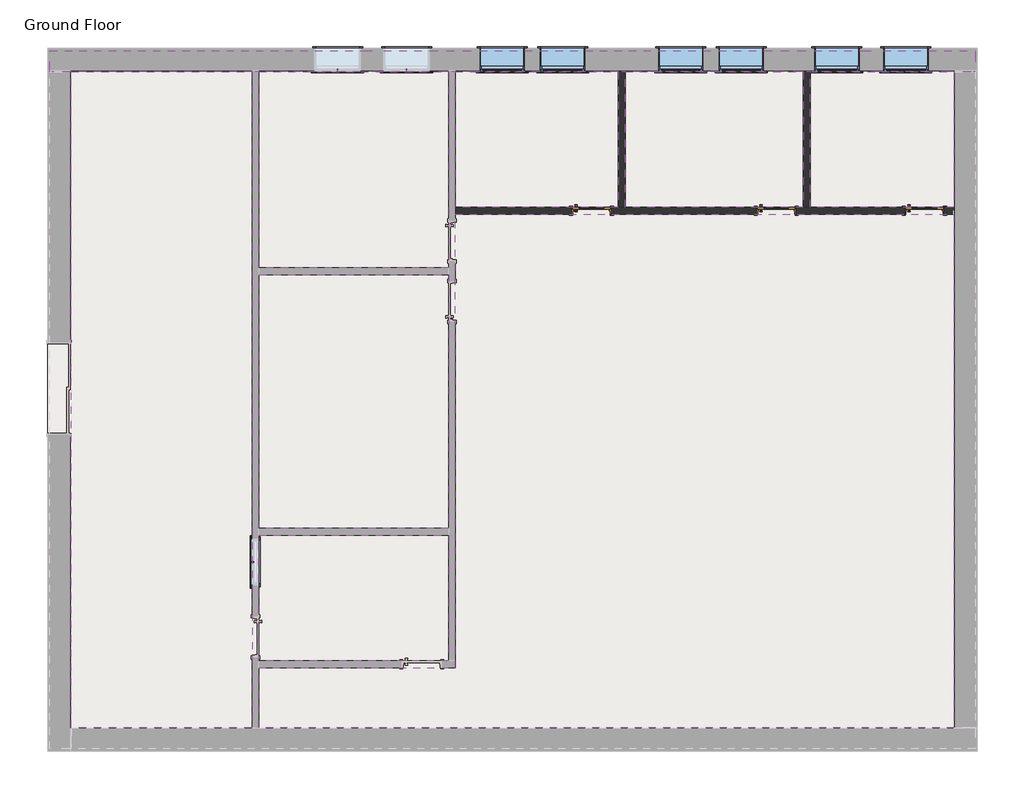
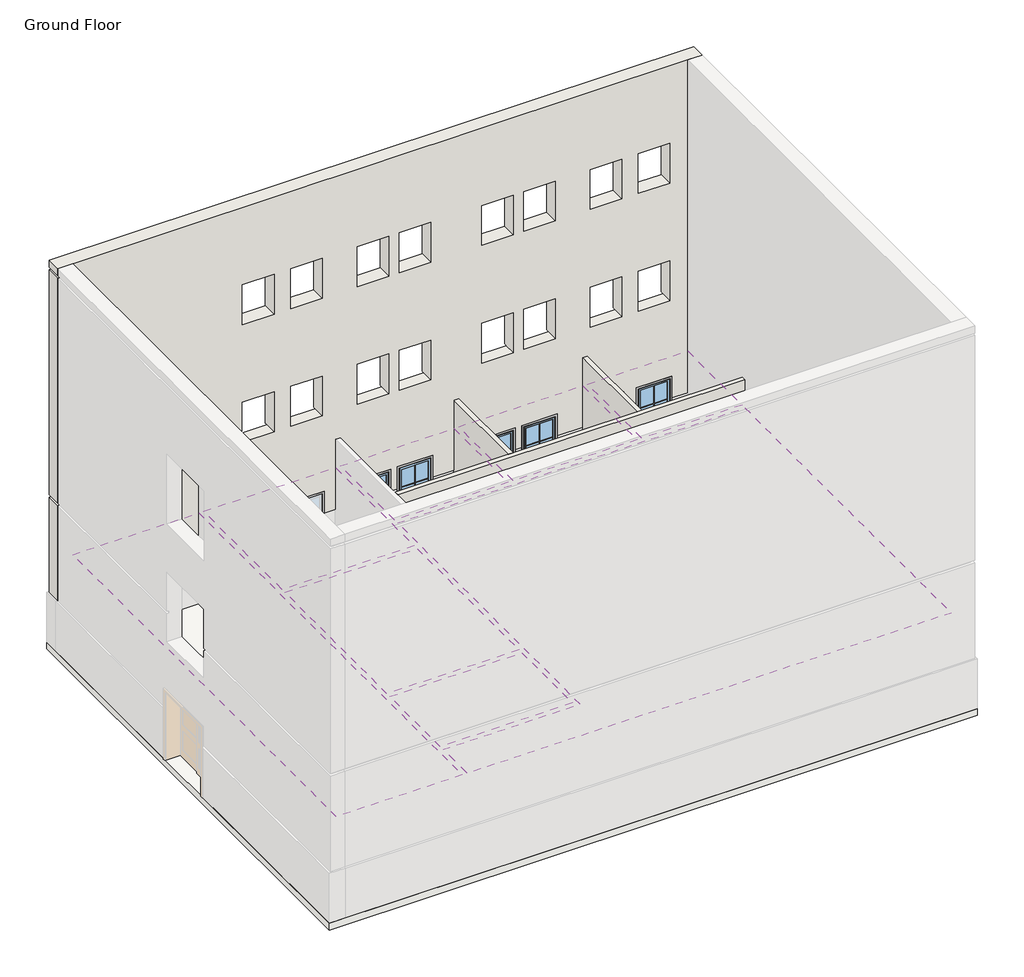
# One storey, part 2 of 2: 27 proxies, 8 coverings, 6 windows, 4 walls, 3 doors, 1 slab.
"""IFC4 building model written with IfcOpenShell, lengths in millimetres."""

from ifc_helpers import new_model, si_unit, frame, origin, place, context, project, spatial, polyline, outline, extrude, faceted_brep, transform, mapped, element, save
from components import muntin_pattern_2x2_muntin_pattern_2x2_49331bd8, muntin_pattern_2x2_muntin_pattern_2x2_a8e7a107, trim_window_exterior_flat_with_sill_cdc255b3, trim_window_exterior_flat_with_sill_0ab60cae, trim_window_interior_flat_picture_frame_ab41cb78, trim_window_interior_flat_picture_frame_2efe6088, m_door_interior_single_full_glass_wood_750_x_2100mm_ded28596, window_awning_single_915_x_1220_66c2d390, window_awning_single_915_x_1220_806fc205

model = new_model("IFC4")

# Units and contexts
model_context = context("Model", 3, world=origin())
ifc_project = project(units=[si_unit("LENGTHUNIT", "METRE", prefix="MILLI")], contexts=[model_context])

# Site, building, storey
site = spatial("IfcSite", under=ifc_project)
building = spatial("IfcBuilding", under=site)
storey = spatial("IfcBuildingStorey", under=building, Name="Ground Floor", Elevation=0.0)

# Proxies
placement = place(None, origin())
muntin_pattern_2x2_muntin_pattern_2x2_shape = muntin_pattern_2x2_muntin_pattern_2x2_49331bd8(model_context)
element("IfcBuildingElementProxy", 1, Name="Muntin Pattern_2x2 : Muntin Pattern_2x2", ObjectType="Muntin Pattern_2x2 : Muntin Pattern_2x2", at=placement, inside=storey, context=model_context, shape_type="MappedRepresentation", body=[
    mapped(muntin_pattern_2x2_muntin_pattern_2x2_shape, transform((-13370.5350037, -4799.4136534, 984.25), x_axis=(0.0, 1.0, 0.0), y_axis=(-1.0, 0.0, 0.0), z_axis=(0.0, 0.0, 1.0))),
])
element("IfcBuildingElementProxy", 2, Name="Muntin Pattern_2x2 : Muntin Pattern_2x2", ObjectType="Muntin Pattern_2x2 : Muntin Pattern_2x2", at=placement, inside=storey, context=model_context, shape_type="MappedRepresentation", body=[
    mapped(muntin_pattern_2x2_muntin_pattern_2x2_shape, transform((-1590.3100037, 5107.7613466, 984.25), x_axis=(-1.0, 0.0, 0.0), y_axis=(0.0, -1.0, 0.0), z_axis=(0.0, 0.0, 1.0))),
])
element("IfcBuildingElementProxy", 3, Name="Muntin Pattern_2x2 : Muntin Pattern_2x2", ObjectType="Muntin Pattern_2x2 : Muntin Pattern_2x2", at=placement, inside=storey, context=model_context, shape_type="MappedRepresentation", body=[
    mapped(muntin_pattern_2x2_muntin_pattern_2x2_shape, transform((-198.934993, 5107.7613466, 984.25), x_axis=(-1.0, 0.0, 0.0), y_axis=(0.0, -1.0, 0.0), z_axis=(0.0, 0.0, 1.0))),
])
element("IfcBuildingElementProxy", 4, Name="Muntin Pattern_2x2 : Muntin Pattern_2x2", ObjectType="Muntin Pattern_2x2 : Muntin Pattern_2x2", at=placement, inside=storey, context=model_context, shape_type="MappedRepresentation", body=[
    mapped(muntin_pattern_2x2_muntin_pattern_2x2_shape, transform((-3517.3100037, 5107.7613466, 984.25), x_axis=(-1.0, 0.0, 0.0), y_axis=(0.0, -1.0, 0.0), z_axis=(0.0, 0.0, 1.0))),
])
element("IfcBuildingElementProxy", 5, Name="Muntin Pattern_2x2 : Muntin Pattern_2x2", ObjectType="Muntin Pattern_2x2 : Muntin Pattern_2x2", at=placement, inside=storey, context=model_context, shape_type="MappedRepresentation", body=[
    mapped(muntin_pattern_2x2_muntin_pattern_2x2_shape, transform((-4736.5100037, 5107.7613466, 984.25), x_axis=(-1.0, 0.0, 0.0), y_axis=(0.0, -1.0, 0.0), z_axis=(0.0, 0.0, 1.0))),
])
muntin_pattern_2x2_muntin_pattern_2x2_2_shape = muntin_pattern_2x2_muntin_pattern_2x2_a8e7a107(model_context)
element("IfcBuildingElementProxy", 6, Name="Muntin Pattern_2x2 : Muntin Pattern_2x2", ObjectType="Muntin Pattern_2x2 : Muntin Pattern_2x2", at=placement, inside=storey, context=model_context, shape_type="MappedRepresentation", body=[
    mapped(muntin_pattern_2x2_muntin_pattern_2x2_2_shape, transform((-10263.2100037, 5107.7613466, 984.25), x_axis=(1.0, 0.0, 0.0), y_axis=(0.0, 1.0, 0.0), z_axis=(0.0, 0.0, 1.0))),
])
element("IfcBuildingElementProxy", 7, Name="Muntin Pattern_2x2 : Muntin Pattern_2x2", ObjectType="Muntin Pattern_2x2 : Muntin Pattern_2x2", at=placement, inside=storey, context=model_context, shape_type="MappedRepresentation", body=[
    mapped(muntin_pattern_2x2_muntin_pattern_2x2_2_shape, transform((-11654.5850143, 5107.7613466, 984.25), x_axis=(1.0, 0.0, 0.0), y_axis=(0.0, 1.0, 0.0), z_axis=(0.0, 0.0, 1.0))),
])
element("IfcBuildingElementProxy", 8, Name="Muntin Pattern_2x2 : Muntin Pattern_2x2", ObjectType="Muntin Pattern_2x2 : Muntin Pattern_2x2", at=placement, inside=storey, context=model_context, shape_type="MappedRepresentation", body=[
    mapped(muntin_pattern_2x2_muntin_pattern_2x2_2_shape, transform((-8336.2100037, 5107.7613466, 984.25), x_axis=(1.0, 0.0, 0.0), y_axis=(0.0, 1.0, 0.0), z_axis=(0.0, 0.0, 1.0))),
])
element("IfcBuildingElementProxy", 9, Name="Muntin Pattern_2x2 : Muntin Pattern_2x2", ObjectType="Muntin Pattern_2x2 : Muntin Pattern_2x2", at=placement, inside=storey, context=model_context, shape_type="MappedRepresentation", body=[
    mapped(muntin_pattern_2x2_muntin_pattern_2x2_2_shape, transform((-7117.0100037, 5107.7613466, 984.25), x_axis=(1.0, 0.0, 0.0), y_axis=(0.0, 1.0, 0.0), z_axis=(0.0, 0.0, 1.0))),
])
trim_window_exterior_flat_with_sill_shape = trim_window_exterior_flat_with_sill_cdc255b3(model_context)
element("IfcBuildingElementProxy", 10, Name="Trim-Window-Exterior-Flat : with Sill", ObjectType="Trim-Window-Exterior-Flat : with Sill", at=placement, inside=storey, context=model_context, shape_type="MappedRepresentation", body=[
    mapped(trim_window_exterior_flat_with_sill_shape, transform((-13380.0600037, -4799.4136534, 2134.4), x_axis=(0.0, -1.0, 0.0), y_axis=(0.0, 0.0, 1.0), z_axis=(-1.0, 0.0, 0.0))),
])
element("IfcBuildingElementProxy", 11, Name="Trim-Window-Exterior-Flat : with Sill", ObjectType="Trim-Window-Exterior-Flat : with Sill", at=placement, inside=storey, context=model_context, shape_type="MappedRepresentation", body=[
    mapped(trim_window_exterior_flat_with_sill_shape, transform((-1590.3100037, 5098.2363466, 2134.4), x_axis=(1.0, 0.0, 0.0), y_axis=(0.0, 0.0, 1.0), z_axis=(0.0, -1.0, 0.0))),
])
element("IfcBuildingElementProxy", 12, Name="Trim-Window-Exterior-Flat : with Sill", ObjectType="Trim-Window-Exterior-Flat : with Sill", at=placement, inside=storey, context=model_context, shape_type="MappedRepresentation", body=[
    mapped(trim_window_exterior_flat_with_sill_shape, transform((-198.934993, 5098.2363466, 2134.4), x_axis=(1.0, 0.0, 0.0), y_axis=(0.0, 0.0, 1.0), z_axis=(0.0, -1.0, 0.0))),
])
element("IfcBuildingElementProxy", 13, Name="Trim-Window-Exterior-Flat : with Sill", ObjectType="Trim-Window-Exterior-Flat : with Sill", at=placement, inside=storey, context=model_context, shape_type="MappedRepresentation", body=[
    mapped(trim_window_exterior_flat_with_sill_shape, transform((-3517.3100037, 5098.2363466, 2134.4), x_axis=(1.0, 0.0, 0.0), y_axis=(0.0, 0.0, 1.0), z_axis=(0.0, -1.0, 0.0))),
])
element("IfcBuildingElementProxy", 14, Name="Trim-Window-Exterior-Flat : with Sill", ObjectType="Trim-Window-Exterior-Flat : with Sill", at=placement, inside=storey, context=model_context, shape_type="MappedRepresentation", body=[
    mapped(trim_window_exterior_flat_with_sill_shape, transform((-4736.5100037, 5098.2363466, 2134.4), x_axis=(1.0, 0.0, 0.0), y_axis=(0.0, 0.0, 1.0), z_axis=(0.0, -1.0, 0.0))),
])
trim_window_exterior_flat_with_sill_2_shape = trim_window_exterior_flat_with_sill_0ab60cae(model_context)
element("IfcBuildingElementProxy", 15, Name="Trim-Window-Exterior-Flat : with Sill", ObjectType="Trim-Window-Exterior-Flat : with Sill", at=placement, inside=storey, context=model_context, shape_type="MappedRepresentation", body=[
    mapped(trim_window_exterior_flat_with_sill_2_shape, transform((-10263.2100037, 5098.2363466, 2134.4), x_axis=(-1.0, 0.0, 0.0), y_axis=(0.0, 0.0, -1.0), z_axis=(0.0, -1.0, 0.0))),
])
element("IfcBuildingElementProxy", 16, Name="Trim-Window-Exterior-Flat : with Sill", ObjectType="Trim-Window-Exterior-Flat : with Sill", at=placement, inside=storey, context=model_context, shape_type="MappedRepresentation", body=[
    mapped(trim_window_exterior_flat_with_sill_2_shape, transform((-11654.5850143, 5098.2363466, 2134.4), x_axis=(-1.0, 0.0, 0.0), y_axis=(0.0, 0.0, -1.0), z_axis=(0.0, -1.0, 0.0))),
])
element("IfcBuildingElementProxy", 17, Name="Trim-Window-Exterior-Flat : with Sill", ObjectType="Trim-Window-Exterior-Flat : with Sill", at=placement, inside=storey, context=model_context, shape_type="MappedRepresentation", body=[
    mapped(trim_window_exterior_flat_with_sill_2_shape, transform((-8336.2100037, 5098.2363466, 2134.4), x_axis=(-1.0, 0.0, 0.0), y_axis=(0.0, 0.0, -1.0), z_axis=(0.0, -1.0, 0.0))),
])
element("IfcBuildingElementProxy", 18, Name="Trim-Window-Exterior-Flat : with Sill", ObjectType="Trim-Window-Exterior-Flat : with Sill", at=placement, inside=storey, context=model_context, shape_type="MappedRepresentation", body=[
    mapped(trim_window_exterior_flat_with_sill_2_shape, transform((-7117.0100037, 5098.2363466, 2134.4), x_axis=(-1.0, 0.0, 0.0), y_axis=(0.0, 0.0, -1.0), z_axis=(0.0, -1.0, 0.0))),
])
trim_window_interior_flat_picture_frame_shape = trim_window_interior_flat_picture_frame_ab41cb78(model_context)
element("IfcBuildingElementProxy", 19, Name="Trim-Window-Interior-Flat : Picture Frame", ObjectType="Trim-Window-Interior-Flat : Picture Frame", at=placement, inside=storey, context=model_context, shape_type="MappedRepresentation", body=[
    mapped(trim_window_interior_flat_picture_frame_shape, transform((-13241.5600037, -4799.4136534, 2134.4), x_axis=(0.0, 1.0, 0.0), y_axis=(0.0, 0.0, 1.0), z_axis=(1.0, 0.0, 0.0))),
])
element("IfcBuildingElementProxy", 20, Name="Trim-Window-Interior-Flat : Picture Frame", ObjectType="Trim-Window-Interior-Flat : Picture Frame", at=placement, inside=storey, context=model_context, shape_type="MappedRepresentation", body=[
    mapped(trim_window_interior_flat_picture_frame_shape, transform((-1590.3100037, 5558.2363466, 2134.4), x_axis=(-1.0, 0.0, 0.0), y_axis=(0.0, 0.0, 1.0), z_axis=(0.0, 1.0, 0.0))),
])
element("IfcBuildingElementProxy", 21, Name="Trim-Window-Interior-Flat : Picture Frame", ObjectType="Trim-Window-Interior-Flat : Picture Frame", at=placement, inside=storey, context=model_context, shape_type="MappedRepresentation", body=[
    mapped(trim_window_interior_flat_picture_frame_shape, transform((-198.934993, 5558.2363466, 2134.4), x_axis=(-1.0, 0.0, 0.0), y_axis=(0.0, 0.0, 1.0), z_axis=(0.0, 1.0, 0.0))),
])
element("IfcBuildingElementProxy", 22, Name="Trim-Window-Interior-Flat : Picture Frame", ObjectType="Trim-Window-Interior-Flat : Picture Frame", at=placement, inside=storey, context=model_context, shape_type="MappedRepresentation", body=[
    mapped(trim_window_interior_flat_picture_frame_shape, transform((-3517.3100037, 5558.2363466, 2134.4), x_axis=(-1.0, 0.0, 0.0), y_axis=(0.0, 0.0, 1.0), z_axis=(0.0, 1.0, 0.0))),
])
element("IfcBuildingElementProxy", 23, Name="Trim-Window-Interior-Flat : Picture Frame", ObjectType="Trim-Window-Interior-Flat : Picture Frame", at=placement, inside=storey, context=model_context, shape_type="MappedRepresentation", body=[
    mapped(trim_window_interior_flat_picture_frame_shape, transform((-4736.5100037, 5558.2363466, 2134.4), x_axis=(-1.0, 0.0, 0.0), y_axis=(0.0, 0.0, 1.0), z_axis=(0.0, 1.0, 0.0))),
])
trim_window_interior_flat_picture_frame_2_shape = trim_window_interior_flat_picture_frame_2efe6088(model_context)
element("IfcBuildingElementProxy", 24, Name="Trim-Window-Interior-Flat : Picture Frame", ObjectType="Trim-Window-Interior-Flat : Picture Frame", at=placement, inside=storey, context=model_context, shape_type="MappedRepresentation", body=[
    mapped(trim_window_interior_flat_picture_frame_2_shape, transform((-10263.2100037, 5558.2363466, 2134.4), x_axis=(1.0, 0.0, 0.0), y_axis=(0.0, 0.0, -1.0), z_axis=(0.0, 1.0, 0.0))),
])
element("IfcBuildingElementProxy", 25, Name="Trim-Window-Interior-Flat : Picture Frame", ObjectType="Trim-Window-Interior-Flat : Picture Frame", at=placement, inside=storey, context=model_context, shape_type="MappedRepresentation", body=[
    mapped(trim_window_interior_flat_picture_frame_2_shape, transform((-11654.5850143, 5558.2363466, 2134.4), x_axis=(1.0, 0.0, 0.0), y_axis=(0.0, 0.0, -1.0), z_axis=(0.0, 1.0, 0.0))),
])
element("IfcBuildingElementProxy", 26, Name="Trim-Window-Interior-Flat : Picture Frame", ObjectType="Trim-Window-Interior-Flat : Picture Frame", at=placement, inside=storey, context=model_context, shape_type="MappedRepresentation", body=[
    mapped(trim_window_interior_flat_picture_frame_2_shape, transform((-8336.2100037, 5558.2363466, 2134.4), x_axis=(1.0, 0.0, 0.0), y_axis=(0.0, 0.0, -1.0), z_axis=(0.0, 1.0, 0.0))),
])
element("IfcBuildingElementProxy", 27, Name="Trim-Window-Interior-Flat : Picture Frame", ObjectType="Trim-Window-Interior-Flat : Picture Frame", at=placement, inside=storey, context=model_context, shape_type="MappedRepresentation", body=[
    mapped(trim_window_interior_flat_picture_frame_2_shape, transform((-7117.0100037, 5558.2363466, 2134.4), x_axis=(1.0, 0.0, 0.0), y_axis=(0.0, 0.0, -1.0), z_axis=(0.0, 1.0, 0.0))),
])

# Coverings
element("IfcCovering", 28, ObjectType="Plain", at=placement, inside=storey, context=model_context, shape_type="SweptSolid", body=[
    extrude(outline(polyline([(-17024.8100037, 5080.2363466), (-13380.0600037, 5080.2363466), (-13380.0600037, -8139.7636534), (-17024.8100037, -8139.7636534), (-17024.8100037, 5080.2363466)])), frame((0.0, 0.0, 2800.0), z_axis=(0.0, 0.0, 1.0), x_axis=(1.0, 0.0, 0.0)), (0.0, 0.0, 1.0), 57.0),
])
element("IfcCovering", 29, ObjectType="Plain", at=placement, inside=storey, context=model_context, shape_type="SweptSolid", body=[
    extrude(outline(polyline([(-13241.5600037, 1130.2863466), (-13241.5600037, 5080.2363466), (-9418.0600037, 5080.2363466), (-9418.0600037, 1130.2863466), (-13241.5600037, 1130.2863466)])), frame((0.0, 0.0, 2800.0), z_axis=(0.0, 0.0, 1.0), x_axis=(1.0, 0.0, 0.0)), (0.0, 0.0, 1.0), 57.0),
])
element("IfcCovering", 30, ObjectType="Plain", at=placement, inside=storey, context=model_context, shape_type="SweptSolid", body=[
    extrude(outline(polyline([(-9418.0600037, -4120.5636534), (-13241.5600037, -4120.5636534), (-13241.5600037, 991.7863466), (-9418.0600037, 991.7863466), (-9418.0600037, -4120.5636534)])), frame((0.0, 0.0, 2800.0), z_axis=(0.0, 0.0, 1.0), x_axis=(1.0, 0.0, 0.0)), (0.0, 0.0, 1.0), 57.0),
])
element("IfcCovering", 31, ObjectType="Plain", at=placement, inside=storey, context=model_context, shape_type="SweptSolid", body=[
    extrude(outline(polyline([(-9418.0600037, -6794.5136534), (-13241.5600037, -6794.5136534), (-13241.5600037, -4259.0636534), (-9418.0600037, -4259.0636534), (-9418.0600037, -6794.5136534)])), frame((0.0, 0.0, 2800.0), z_axis=(0.0, 0.0, 1.0), x_axis=(1.0, 0.0, 0.0)), (0.0, 0.0, 1.0), 57.0),
])
element("IfcCovering", 32, ObjectType="Plain", at=placement, inside=storey, context=model_context, shape_type="SweptSolid", body=[
    extrude(outline(polyline([(767.1899963, -8139.7636534), (-13241.5600037, -8139.7636534), (-13241.5600037, -6933.0136534), (-9279.5600037, -6933.0136534), (-9279.5600037, 2210.9863466), (767.1899963, 2210.9863466), (767.1899963, -8139.7636534)])), frame((0.0, 0.0, 2800.0), z_axis=(0.0, 0.0, 1.0), x_axis=(1.0, 0.0, 0.0)), (0.0, 0.0, 1.0), 57.0),
])
element("IfcCovering", 33, ObjectType="Plain", at=placement, inside=storey, context=model_context, shape_type="SweptSolid", body=[
    extrude(outline(polyline([(-9279.5600037, 5080.2363466), (-5996.0100037, 5080.2363466), (-5996.0100037, 2349.4863466), (-9279.5600037, 2349.4863466), (-9279.5600037, 5080.2363466)])), frame((0.0, 0.0, 2800.0), z_axis=(0.0, 0.0, 1.0), x_axis=(1.0, 0.0, 0.0)), (0.0, 0.0, 1.0), 57.0),
])
element("IfcCovering", 34, ObjectType="Plain", at=placement, inside=storey, context=model_context, shape_type="SweptSolid", body=[
    extrude(outline(polyline([(-5857.5100037, 2349.4863466), (-5857.5100037, 5080.2363466), (-2269.1600037, 5080.2363466), (-2269.1600037, 2349.4863466), (-5857.5100037, 2349.4863466)])), frame((0.0, 0.0, 2800.0), z_axis=(0.0, 0.0, 1.0), x_axis=(1.0, 0.0, 0.0)), (0.0, 0.0, 1.0), 57.0),
])
element("IfcCovering", 35, ObjectType="Plain", at=placement, inside=storey, context=model_context, shape_type="SweptSolid", body=[
    extrude(outline(polyline([(-2130.6600037, 2349.4863466), (-2130.6600037, 5080.2363466), (767.1899963, 5080.2363466), (767.1899963, 2349.4863466), (-2130.6600037, 2349.4863466)])), frame((0.0, 0.0, 2800.0), z_axis=(0.0, 0.0, 1.0), x_axis=(1.0, 0.0, 0.0)), (0.0, 0.0, 1.0), 57.0),
])

# Doors
m_door_interior_single_full_glass_wood_750_x_2100mm_shape = m_door_interior_single_full_glass_wood_750_x_2100mm_ded28596(model_context)
element("IfcDoor", 36, ObjectType="M_Door-Interior-Single-Full Glass-Wood : 750 x 2100mm", at=placement, inside=storey, context=model_context, shape_type="MappedRepresentation", body=[
    mapped(m_door_interior_single_full_glass_wood_750_x_2100mm_shape, transform((-6536.3600037, 2283.4113466, 0.0), x_axis=(1.0, 0.0, 0.0), y_axis=(0.0, 1.0, 0.0), z_axis=(0.0, 0.0, 1.0))),
])
element("IfcDoor", 37, ObjectType="M_Door-Interior-Single-Full Glass-Wood : 750 x 2100mm", at=placement, inside=storey, context=model_context, shape_type="MappedRepresentation", body=[
    mapped(m_door_interior_single_full_glass_wood_750_x_2100mm_shape, transform((-2809.5100037, 2283.4113466, 0.0), x_axis=(1.0, 0.0, 0.0), y_axis=(0.0, 1.0, 0.0), z_axis=(0.0, 0.0, 1.0))),
])
element("IfcDoor", 38, ObjectType="M_Door-Interior-Single-Full Glass-Wood : 750 x 2100mm", at=placement, inside=storey, context=model_context, shape_type="MappedRepresentation", body=[
    mapped(m_door_interior_single_full_glass_wood_750_x_2100mm_shape, transform((175.5899963, 2283.4113466, 0.0), x_axis=(1.0, 0.0, 0.0), y_axis=(0.0, 1.0, 0.0), z_axis=(0.0, 0.0, 1.0))),
])

# Slab
element("IfcSlab", 39, ObjectType="160mm Concrete With 50mm Metal Deck", at=placement, inside=storey, context=model_context, shape_type="SweptSolid", body=[
    extrude(outline(polyline([(1245.1899963, 5558.2363466), (1245.1899963, -8617.7636534), (-17502.8100037, -8617.7636534), (-17502.8100037, 5558.2363466), (1245.1899963, 5558.2363466)])), frame((0.0, 0.0, -210.0), z_axis=(0.0, 0.0, 1.0), x_axis=(1.0, 0.0, 0.0)), (0.0, 0.0, 1.0), 210.0),
])

# Walls
element("IfcWall", 40, ObjectType="Exterior - Render on Brick on Block", at=placement, inside=storey, context=model_context, shape_type="Brep", body=[
    faceted_brep([(1196.1899963, 5080.2363466, 11700.0), (767.1899963, 5080.2363466, 11700.0), (-17024.8100037, 5080.2363466, 11700.0), (-17453.8100037, 5080.2363466, 11700.0), (-17453.8100037, 5080.2363466, 11475.0), (-17378.8100037, 5080.2363466, 11475.0), (-17378.8100037, 5080.2363466, 11400.0), (-17453.8100037, 5080.2363466, 11400.0), (-17453.8100037, 5080.2363466, 4524.0), (-17378.8100037, 5080.2363466, 4524.0), (-17378.8100037, 5080.2363466, 4449.0), (-17453.8100037, 5080.2363466, 4449.0), (-17453.8100037, 5080.2363466, 1524.0), (-17024.8100037, 5080.2363466, 1524.0), (-13380.0600037, 5080.2363466, 1524.0), (-13241.5600037, 5080.2363466, 1524.0), (-12112.0850143, 5080.2363466, 1524.0), (-12112.0850143, 5080.2363466, 2134.4), (-11197.0850143, 5080.2363466, 2134.4), (-11197.0850143, 5080.2363466, 1524.0), (-10720.7100037, 5080.2363466, 1524.0), (-10720.7100037, 5080.2363466, 2134.4), (-9805.7100037, 5080.2363466, 2134.4), (-9805.7100037, 5080.2363466, 1524.0), (-9418.0600037, 5080.2363466, 1524.0), (-9279.5600037, 5080.2363466, 1524.0), (-8793.7100037, 5080.2363466, 1524.0), (-8793.7100037, 5080.2363466, 2134.4), (-7878.7100037, 5080.2363466, 2134.4), (-7878.7100037, 5080.2363466, 1524.0), (-7574.5100037, 5080.2363466, 1524.0), (-7574.5100037, 5080.2363466, 2134.4), (-6659.5100037, 5080.2363466, 2134.4), (-6659.5100037, 5080.2363466, 1524.0), (-5996.0100037, 5080.2363466, 1524.0), (-5857.5100037, 5080.2363466, 1524.0), (-5194.0100037, 5080.2363466, 1524.0), (-5194.0100037, 5080.2363466, 2134.4), (-4279.0100037, 5080.2363466, 2134.4), (-4279.0100037, 5080.2363466, 1524.0), (-3974.8100037, 5080.2363466, 1524.0), (-3974.8100037, 5080.2363466, 2134.4), (-3059.8100037, 5080.2363466, 2134.4), (-3059.8100037, 5080.2363466, 1524.0), (-2269.1600037, 5080.2363466, 1524.0), (-2130.6600037, 5080.2363466, 1524.0), (-2047.8100037, 5080.2363466, 1524.0), (-2047.8100037, 5080.2363466, 2134.4), (-1132.8100037, 5080.2363466, 2134.4), (-1132.8100037, 5080.2363466, 1524.0), (-656.434993, 5080.2363466, 1524.0), (-656.434993, 5080.2363466, 2134.4), (258.565007, 5080.2363466, 2134.4), (258.565007, 5080.2363466, 1524.0), (767.1899963, 5080.2363466, 1524.0), (1196.1899963, 5080.2363466, 1524.0), (1196.1899963, 5080.2363466, 4449.0), (1121.1899963, 5080.2363466, 4449.0), (1121.1899963, 5080.2363466, 4524.0), (1196.1899963, 5080.2363466, 4524.0), (1196.1899963, 5080.2363466, 11400.0), (1121.1899963, 5080.2363466, 11400.0), (1121.1899963, 5080.2363466, 11475.0), (1196.1899963, 5080.2363466, 11475.0), (-6659.5100037, 5080.2363466, 5734.4), (-6659.5100037, 5080.2363466, 4514.4), (-7574.5100037, 5080.2363466, 4514.4), (-7574.5100037, 5080.2363466, 5734.4), (-7878.7100037, 5080.2363466, 5734.4), (-7878.7100037, 5080.2363466, 4514.4), (-8793.7100037, 5080.2363466, 4514.4), (-8793.7100037, 5080.2363466, 5734.4), (-11197.0850143, 5080.2363466, 5734.4), (-11197.0850143, 5080.2363466, 4514.4), (-12112.0850143, 5080.2363466, 4514.4), (-12112.0850143, 5080.2363466, 5734.4), (-9805.7100037, 5080.2363466, 5734.4), (-9805.7100037, 5080.2363466, 4514.4), (-10720.7100037, 5080.2363466, 4514.4), (-10720.7100037, 5080.2363466, 5734.4), (-5194.0100037, 5080.2363466, 4514.4), (-5194.0100037, 5080.2363466, 5734.4), (-4279.0100037, 5080.2363466, 5734.4), (-4279.0100037, 5080.2363466, 4514.4), (-3974.8100037, 5080.2363466, 4514.4), (-3974.8100037, 5080.2363466, 5734.4), (-3059.8100037, 5080.2363466, 5734.4), (-3059.8100037, 5080.2363466, 4514.4), (-656.434993, 5080.2363466, 4514.4), (-656.434993, 5080.2363466, 5734.4), (258.565007, 5080.2363466, 5734.4), (258.565007, 5080.2363466, 4514.4), (-2047.8100037, 5080.2363466, 4514.4), (-2047.8100037, 5080.2363466, 5734.4), (-1132.8100037, 5080.2363466, 5734.4), (-1132.8100037, 5080.2363466, 4514.4), (-6659.5100037, 5080.2363466, 9334.4), (-6659.5100037, 5080.2363466, 8114.4), (-7574.5100037, 5080.2363466, 8114.4), (-7574.5100037, 5080.2363466, 9334.4), (-7878.7100037, 5080.2363466, 9334.4), (-7878.7100037, 5080.2363466, 8114.4), (-8793.7100037, 5080.2363466, 8114.4), (-8793.7100037, 5080.2363466, 9334.4), (-11197.0850143, 5080.2363466, 9334.4), (-11197.0850143, 5080.2363466, 8114.4), (-12112.0850143, 5080.2363466, 8114.4), (-12112.0850143, 5080.2363466, 9334.4), (-9805.7100037, 5080.2363466, 9334.4), (-9805.7100037, 5080.2363466, 8114.4), (-10720.7100037, 5080.2363466, 8114.4), (-10720.7100037, 5080.2363466, 9334.4), (-5194.0100037, 5080.2363466, 8114.4), (-5194.0100037, 5080.2363466, 9334.4), (-4279.0100037, 5080.2363466, 9334.4), (-4279.0100037, 5080.2363466, 8114.4), (-3974.8100037, 5080.2363466, 8114.4), (-3974.8100037, 5080.2363466, 9334.4), (-3059.8100037, 5080.2363466, 9334.4), (-3059.8100037, 5080.2363466, 8114.4), (-656.434993, 5080.2363466, 8114.4), (-656.434993, 5080.2363466, 9334.4), (258.565007, 5080.2363466, 9334.4), (258.565007, 5080.2363466, 8114.4), (-2047.8100037, 5080.2363466, 8114.4), (-2047.8100037, 5080.2363466, 9334.4), (-1132.8100037, 5080.2363466, 9334.4), (-1132.8100037, 5080.2363466, 8114.4), (-17453.8100037, 5509.2363466, 11700.0), (1196.1899963, 5509.2363466, 11700.0), (1196.1899963, 5509.2363466, 11475.0), (-17453.8100037, 5509.2363466, 11475.0), (-2047.8100037, 5509.2363466, 2134.4), (-2047.8100037, 5509.2363466, 1524.0), (-3059.8100037, 5509.2363466, 1524.0), (-3059.8100037, 5509.2363466, 2134.4), (-3974.8100037, 5509.2363466, 2134.4), (-3974.8100037, 5509.2363466, 1524.0), (-4279.0100037, 5509.2363466, 1524.0), (-4279.0100037, 5509.2363466, 2134.4), (-5194.0100037, 5509.2363466, 2134.4), (-5194.0100037, 5509.2363466, 1524.0), (-6659.5100037, 5509.2363466, 1524.0), (-6659.5100037, 5509.2363466, 2134.4), (-7574.5100037, 5509.2363466, 2134.4), (-7574.5100037, 5509.2363466, 1524.0), (-7878.7100037, 5509.2363466, 1524.0), (-7878.7100037, 5509.2363466, 2134.4), (-8793.7100037, 5509.2363466, 2134.4), (-8793.7100037, 5509.2363466, 1524.0), (-9805.7100037, 5509.2363466, 1524.0), (-9805.7100037, 5509.2363466, 2134.4), (-10720.7100037, 5509.2363466, 2134.4), (-10720.7100037, 5509.2363466, 1524.0), (-11197.0850143, 5509.2363466, 1524.0), (-11197.0850143, 5509.2363466, 2134.4), (-12112.0850143, 5509.2363466, 2134.4), (-12112.0850143, 5509.2363466, 1524.0), (-17453.8100037, 5509.2363466, 1524.0), (-17453.8100037, 5509.2363466, 4449.0), (1196.1899963, 5509.2363466, 4449.0), (1196.1899963, 5509.2363466, 1524.0), (258.565007, 5509.2363466, 1524.0), (258.565007, 5509.2363466, 2134.4), (-656.434993, 5509.2363466, 2134.4), (-656.434993, 5509.2363466, 1524.0), (-1132.8100037, 5509.2363466, 1524.0), (-1132.8100037, 5509.2363466, 2134.4), (1196.1899963, 5509.2363466, 4524.0), (258.565007, 5509.2363466, 4524.0), (258.565007, 5509.2363466, 5734.4), (-656.434993, 5509.2363466, 5734.4), (-656.434993, 5509.2363466, 4524.0), (-1132.8100037, 5509.2363466, 4524.0), (-1132.8100037, 5509.2363466, 5734.4), (-2047.8100037, 5509.2363466, 5734.4), (-2047.8100037, 5509.2363466, 4524.0), (-3059.8100037, 5509.2363466, 4524.0), (-3059.8100037, 5509.2363466, 5734.4), (-3974.8100037, 5509.2363466, 5734.4), (-3974.8100037, 5509.2363466, 4524.0), (-4279.0100037, 5509.2363466, 4524.0), (-4279.0100037, 5509.2363466, 5734.4), (-5194.0100037, 5509.2363466, 5734.4), (-5194.0100037, 5509.2363466, 4524.0), (-6659.5100037, 5509.2363466, 4524.0), (-6659.5100037, 5509.2363466, 5734.4), (-7574.5100037, 5509.2363466, 5734.4), (-7574.5100037, 5509.2363466, 4524.0), (-7878.7100037, 5509.2363466, 4524.0), (-7878.7100037, 5509.2363466, 5734.4), (-8793.7100037, 5509.2363466, 5734.4), (-8793.7100037, 5509.2363466, 4524.0), (-9805.7100037, 5509.2363466, 4524.0), (-9805.7100037, 5509.2363466, 5734.4), (-10720.7100037, 5509.2363466, 5734.4), (-10720.7100037, 5509.2363466, 4524.0), (-11197.0850143, 5509.2363466, 4524.0), (-11197.0850143, 5509.2363466, 5734.4), (-12112.0850143, 5509.2363466, 5734.4), (-12112.0850143, 5509.2363466, 4524.0), (-17453.8100037, 5509.2363466, 4524.0), (-17453.8100037, 5509.2363466, 11400.0), (1196.1899963, 5509.2363466, 11400.0), (-6659.5100037, 5509.2363466, 8114.4), (-6659.5100037, 5509.2363466, 9334.4), (-7574.5100037, 5509.2363466, 9334.4), (-7574.5100037, 5509.2363466, 8114.4), (-7878.7100037, 5509.2363466, 8114.4), (-7878.7100037, 5509.2363466, 9334.4), (-8793.7100037, 5509.2363466, 9334.4), (-8793.7100037, 5509.2363466, 8114.4), (-11197.0850143, 5509.2363466, 8114.4), (-11197.0850143, 5509.2363466, 9334.4), (-12112.0850143, 5509.2363466, 9334.4), (-12112.0850143, 5509.2363466, 8114.4), (-9805.7100037, 5509.2363466, 8114.4), (-9805.7100037, 5509.2363466, 9334.4), (-10720.7100037, 5509.2363466, 9334.4), (-10720.7100037, 5509.2363466, 8114.4), (-5194.0100037, 5509.2363466, 9334.4), (-5194.0100037, 5509.2363466, 8114.4), (-4279.0100037, 5509.2363466, 8114.4), (-4279.0100037, 5509.2363466, 9334.4), (-3974.8100037, 5509.2363466, 9334.4), (-3974.8100037, 5509.2363466, 8114.4), (-3059.8100037, 5509.2363466, 8114.4), (-3059.8100037, 5509.2363466, 9334.4), (-656.434993, 5509.2363466, 9334.4), (-656.434993, 5509.2363466, 8114.4), (258.565007, 5509.2363466, 8114.4), (258.565007, 5509.2363466, 9334.4), (-2047.8100037, 5509.2363466, 9334.4), (-2047.8100037, 5509.2363466, 8114.4), (-1132.8100037, 5509.2363466, 8114.4), (-1132.8100037, 5509.2363466, 9334.4), (1196.1899963, 5484.2363466, 1524.0), (258.565007, 5098.2363466, 1524.0), (258.565007, 5484.2363466, 1524.0), (-17453.8100037, 5484.2363466, 1524.0), (-12112.0850143, 5484.2363466, 1524.0), (-12112.0850143, 5098.2363466, 1524.0), (-2047.8100037, 5484.2363466, 1524.0), (-2047.8100037, 5098.2363466, 1524.0), (-3059.8100037, 5098.2363466, 1524.0), (-3059.8100037, 5484.2363466, 1524.0), (-1132.8100037, 5098.2363466, 1524.0), (-1132.8100037, 5484.2363466, 1524.0), (-656.434993, 5484.2363466, 1524.0), (-656.434993, 5098.2363466, 1524.0), (-3974.8100037, 5484.2363466, 1524.0), (-3974.8100037, 5098.2363466, 1524.0), (-4279.0100037, 5098.2363466, 1524.0), (-4279.0100037, 5484.2363466, 1524.0), (-5194.0100037, 5484.2363466, 1524.0), (-5194.0100037, 5098.2363466, 1524.0), (-6659.5100037, 5098.2363466, 1524.0), (-6659.5100037, 5484.2363466, 1524.0), (-7574.5100037, 5484.2363466, 1524.0), (-7574.5100037, 5098.2363466, 1524.0), (-7878.7100037, 5098.2363466, 1524.0), (-7878.7100037, 5484.2363466, 1524.0), (-8793.7100037, 5484.2363466, 1524.0), (-8793.7100037, 5098.2363466, 1524.0), (-9805.7100037, 5098.2363466, 1524.0), (-9805.7100037, 5484.2363466, 1524.0), (-11197.0850143, 5098.2363466, 1524.0), (-11197.0850143, 5484.2363466, 1524.0), (-10720.7100037, 5484.2363466, 1524.0), (-10720.7100037, 5098.2363466, 1524.0), (-17378.8100037, 5434.2363466, 11475.0), (1121.1899963, 5434.2363466, 11475.0), (1121.1899963, 5434.2363466, 11400.0), (-17378.8100037, 5434.2363466, 11400.0), (1121.1899963, 5434.2363466, 4524.0), (258.565007, 5434.2363466, 4524.0), (-17378.8100037, 5434.2363466, 4524.0), (-12112.0850143, 5434.2363466, 4524.0), (-7574.5100037, 5434.2363466, 4524.0), (-7878.7100037, 5434.2363466, 4524.0), (-8793.7100037, 5434.2363466, 4524.0), (-9805.7100037, 5434.2363466, 4524.0), (-10720.7100037, 5434.2363466, 4524.0), (-11197.0850143, 5434.2363466, 4524.0), (-5194.0100037, 5434.2363466, 4524.0), (-6659.5100037, 5434.2363466, 4524.0), (-3974.8100037, 5434.2363466, 4524.0), (-4279.0100037, 5434.2363466, 4524.0), (-2047.8100037, 5434.2363466, 4524.0), (-3059.8100037, 5434.2363466, 4524.0), (-656.434993, 5434.2363466, 4524.0), (-1132.8100037, 5434.2363466, 4524.0), (-17378.8100037, 5434.2363466, 4449.0), (1121.1899963, 5434.2363466, 4449.0), (-12112.0850143, 5434.2363466, 4514.4), (-11197.0850143, 5434.2363466, 4514.4), (-10720.7100037, 5434.2363466, 4514.4), (-9805.7100037, 5434.2363466, 4514.4), (-8793.7100037, 5434.2363466, 4514.4), (-7878.7100037, 5434.2363466, 4514.4), (-7574.5100037, 5434.2363466, 4514.4), (-6659.5100037, 5434.2363466, 4514.4), (-5194.0100037, 5434.2363466, 4514.4), (-4279.0100037, 5434.2363466, 4514.4), (-3974.8100037, 5434.2363466, 4514.4), (-3059.8100037, 5434.2363466, 4514.4), (-2047.8100037, 5434.2363466, 4514.4), (-1132.8100037, 5434.2363466, 4514.4), (-656.434993, 5434.2363466, 4514.4), (258.565007, 5434.2363466, 4514.4)], [[[0, 1, 2, 3, 4, 5, 6, 7, 8, 9, 10, 11, 12, 13, 14, 15, 16, 17, 18, 19, 20, 21, 22, 23, 24, 25, 26, 27, 28, 29, 30, 31, 32, 33, 34, 35, 36, 37, 38, 39, 40, 41, 42, 43, 44, 45, 46, 47, 48, 49, 50, 51, 52, 53, 54, 55, 56, 57, 58, 59, 60, 61, 62, 63], [64, 65, 66, 67], [68, 69, 70, 71], [72, 73, 74, 75], [76, 77, 78, 79], [80, 81, 82, 83], [84, 85, 86, 87], [88, 89, 90, 91], [92, 93, 94, 95], [96, 97, 98, 99], [100, 101, 102, 103], [104, 105, 106, 107], [108, 109, 110, 111], [112, 113, 114, 115], [116, 117, 118, 119], [120, 121, 122, 123], [124, 125, 126, 127]], [[128, 129, 130, 131]], [[132, 133, 134, 135, 136, 137, 138, 139, 140, 141, 142, 143, 144, 145, 146, 147, 148, 149, 150, 151, 152, 153, 154, 155, 156, 157, 158, 159, 160, 161, 162, 163, 164, 165, 166, 167]], [[168, 169, 170, 171, 172, 173, 174, 175, 176, 177, 178, 179, 180, 181, 182, 183, 184, 185, 186, 187, 188, 189, 190, 191, 192, 193, 194, 195, 196, 197, 198, 199, 200, 201, 202, 203], [204, 205, 206, 207], [208, 209, 210, 211], [212, 213, 214, 215], [216, 217, 218, 219], [220, 221, 222, 223], [224, 225, 226, 227], [228, 229, 230, 231], [232, 233, 234, 235]], [[3, 2, 1, 0, 129, 128]], [[236, 55, 54, 53, 237, 238]], [[12, 239, 240, 241, 16, 15, 14, 13]], [[242, 243, 46, 45, 44, 43, 244, 245]], [[49, 246, 247, 248, 249, 50]], [[250, 251, 40, 39, 252, 253]], [[254, 255, 36, 35, 34, 33, 256, 257]], [[258, 259, 30, 29, 260, 261]], [[262, 263, 26, 25, 24, 23, 264, 265]], [[19, 266, 267, 268, 269, 20]], [[270, 271, 272, 273]], [[3, 128, 131, 4]], [[239, 12, 11, 159, 158]], [[201, 8, 7, 202]], [[129, 0, 63, 130]], [[55, 236, 161, 160, 56]], [[59, 168, 203, 60]], [[239, 158, 157, 240]], [[161, 236, 238, 162]], [[133, 242, 245, 134]], [[247, 166, 165, 248]], [[137, 250, 253, 138]], [[141, 254, 257, 142]], [[145, 258, 261, 146]], [[149, 262, 265, 150]], [[267, 154, 153, 268]], [[271, 270, 5, 4, 131, 130, 63, 62]], [[273, 272, 61, 60, 203, 202, 7, 6]], [[270, 273, 6, 5]], [[272, 271, 62, 61]], [[132, 47, 46, 243, 242, 133]], [[48, 167, 166, 247, 246, 49]], [[47, 132, 167, 48]], [[164, 51, 50, 249, 248, 165]], [[52, 163, 162, 238, 237, 53]], [[51, 164, 163, 52]], [[136, 41, 40, 251, 250, 137]], [[42, 135, 134, 245, 244, 43]], [[41, 136, 135, 42]], [[140, 37, 36, 255, 254, 141]], [[38, 139, 138, 253, 252, 39]], [[37, 140, 139, 38]], [[32, 143, 142, 257, 256, 33]], [[144, 31, 30, 259, 258, 145]], [[143, 32, 31, 144]], [[28, 147, 146, 261, 260, 29]], [[148, 27, 26, 263, 262, 149]], [[147, 28, 27, 148]], [[18, 155, 154, 267, 266, 19]], [[156, 17, 16, 241, 240, 157]], [[155, 18, 17, 156]], [[22, 151, 150, 265, 264, 23]], [[152, 21, 20, 269, 268, 153]], [[151, 22, 21, 152]], [[58, 274, 275, 169, 168, 59]], [[276, 9, 8, 201, 200, 277]], [[278, 279, 189, 188]], [[280, 281, 193, 192]], [[282, 283, 197, 196]], [[284, 285, 185, 184]], [[286, 287, 181, 180]], [[288, 289, 177, 176]], [[290, 291, 173, 172]], [[292, 293, 57, 56, 160, 159, 11, 10]], [[276, 292, 10, 9]], [[293, 292, 276, 277, 294, 295, 283, 282, 296, 297, 281, 280, 298, 299, 279, 278, 300, 301, 285, 284, 302, 303, 287, 286, 304, 305, 289, 288, 306, 307, 291, 290, 308, 309, 275, 274]], [[293, 274, 58, 57]], [[64, 186, 185, 285, 301, 65]], [[66, 65, 301, 300]], [[187, 67, 66, 300, 278, 188]], [[186, 64, 67, 187]], [[68, 190, 189, 279, 299, 69]], [[70, 69, 299, 298]], [[191, 71, 70, 298, 280, 192]], [[190, 68, 71, 191]], [[72, 198, 197, 283, 295, 73]], [[74, 73, 295, 294]], [[199, 75, 74, 294, 277, 200]], [[198, 72, 75, 199]], [[76, 194, 193, 281, 297, 77]], [[78, 77, 297, 296]], [[195, 79, 78, 296, 282, 196]], [[194, 76, 79, 195]], [[183, 81, 80, 302, 284, 184]], [[80, 83, 303, 302]], [[82, 182, 181, 287, 303, 83]], [[81, 183, 182, 82]], [[179, 85, 84, 304, 286, 180]], [[84, 87, 305, 304]], [[86, 178, 177, 289, 305, 87]], [[85, 179, 178, 86]], [[171, 89, 88, 308, 290, 172]], [[88, 91, 309, 308]], [[90, 170, 169, 275, 309, 91]], [[89, 171, 170, 90]], [[175, 93, 92, 306, 288, 176]], [[92, 95, 307, 306]], [[94, 174, 173, 291, 307, 95]], [[93, 175, 174, 94]], [[96, 205, 204, 97]], [[97, 204, 207, 98]], [[98, 207, 206, 99]], [[205, 96, 99, 206]], [[100, 209, 208, 101]], [[101, 208, 211, 102]], [[102, 211, 210, 103]], [[209, 100, 103, 210]], [[104, 213, 212, 105]], [[105, 212, 215, 106]], [[106, 215, 214, 107]], [[213, 104, 107, 214]], [[108, 217, 216, 109]], [[109, 216, 219, 110]], [[110, 219, 218, 111]], [[217, 108, 111, 218]], [[220, 113, 112, 221]], [[221, 112, 115, 222]], [[222, 115, 114, 223]], [[113, 220, 223, 114]], [[224, 117, 116, 225]], [[225, 116, 119, 226]], [[226, 119, 118, 227]], [[117, 224, 227, 118]], [[228, 121, 120, 229]], [[229, 120, 123, 230]], [[230, 123, 122, 231]], [[121, 228, 231, 122]], [[232, 125, 124, 233]], [[233, 124, 127, 234]], [[234, 127, 126, 235]], [[125, 232, 235, 126]]]),
])
element("IfcWall", 41, ObjectType="Interior - 138mm Partition (1-hr)", at=placement, inside=storey, context=model_context, shape_type="Brep", body=[
    faceted_brep([(767.1899963, 2210.9863466, 3658.0), (-9279.5600037, 2210.9863466, 3658.0), (-9279.5600037, 2210.9863466, 0.0), (-6936.3600037, 2210.9863466, 0.0), (-6936.3600037, 2210.9863466, 2125.0), (-6136.3600037, 2210.9863466, 2125.0), (-6136.3600037, 2210.9863466, 0.0), (-3209.5100037, 2210.9863466, 0.0), (-3209.5100037, 2210.9863466, 2125.0), (-2409.5100037, 2210.9863466, 2125.0), (-2409.5100037, 2210.9863466, 0.0), (-224.4100037, 2210.9863466, 0.0), (-224.4100037, 2210.9863466, 2125.0), (575.5899963, 2210.9863466, 2125.0), (575.5899963, 2210.9863466, 0.0), (785.1899963, 2210.9863466, 0.0), (785.1899963, 2210.9863466, 1524.0), (767.1899963, 2210.9863466, 1524.0), (-9279.5600037, 2349.4863466, 3658.0), (-5996.0100037, 2349.4863466, 3658.0), (-5857.5100037, 2349.4863466, 3658.0), (-2269.1600037, 2349.4863466, 3658.0), (-2130.6600037, 2349.4863466, 3658.0), (767.1899963, 2349.4863466, 3658.0), (767.1899963, 2349.4863466, 1524.0), (785.1899963, 2349.4863466, 1524.0), (785.1899963, 2349.4863466, 0.0), (575.5899963, 2349.4863466, 0.0), (575.5899963, 2349.4863466, 2125.0), (-224.4100037, 2349.4863466, 2125.0), (-224.4100037, 2349.4863466, 0.0), (-2130.6600037, 2349.4863466, 0.0), (-2269.1600037, 2349.4863466, 0.0), (-2409.5100037, 2349.4863466, 0.0), (-2409.5100037, 2349.4863466, 2125.0), (-3209.5100037, 2349.4863466, 2125.0), (-3209.5100037, 2349.4863466, 0.0), (-5857.5100037, 2349.4863466, 0.0), (-5996.0100037, 2349.4863466, 0.0), (-6136.3600037, 2349.4863466, 0.0), (-6136.3600037, 2349.4863466, 2125.0), (-6936.3600037, 2349.4863466, 2125.0), (-6936.3600037, 2349.4863466, 0.0), (-9279.5600037, 2349.4863466, 0.0)], [[[0, 1, 2, 3, 4, 5, 6, 7, 8, 9, 10, 11, 12, 13, 14, 15, 16, 17]], [[18, 19, 20, 21, 22, 23, 24, 25, 26, 27, 28, 29, 30, 31, 32, 33, 34, 35, 36, 37, 38, 39, 40, 41, 42, 43]], [[2, 43, 42, 3]], [[26, 15, 14, 27]], [[6, 39, 38, 37, 36, 7]], [[10, 33, 32, 31, 30, 11]], [[1, 0, 23, 22, 21, 20, 19, 18]], [[17, 16, 25, 24]], [[16, 15, 26, 25]], [[0, 17, 24, 23]], [[2, 1, 18, 43]], [[5, 40, 39, 6]], [[40, 5, 4, 41]], [[41, 4, 3, 42]], [[9, 34, 33, 10]], [[34, 9, 8, 35]], [[35, 8, 7, 36]], [[13, 28, 27, 14]], [[28, 13, 12, 29]], [[29, 12, 11, 30]]]),
])
element("IfcWall", 42, ObjectType="Interior - 138mm Partition (1-hr)", at=placement, inside=storey, context=model_context, shape_type="SweptSolid", body=[
    extrude(outline(polyline([(5098.2363466, 0.0), (2349.4863466, 0.0), (2349.4863466, 3658.0), (5080.2363466, 3658.0), (5080.2363466, 1524.0), (5098.2363466, 1524.0), (5098.2363466, 0.0)])), frame((-5996.0100037, 0.0, 0.0), z_axis=(1.0, 0.0, 0.0), x_axis=(0.0, 1.0, 0.0)), (0.0, 0.0, 1.0), 138.5),
])
element("IfcWall", 43, ObjectType="Interior - 138mm Partition (1-hr)", at=placement, inside=storey, context=model_context, shape_type="SweptSolid", body=[
    extrude(outline(polyline([(5098.2363466, 0.0), (2349.4863466, 0.0), (2349.4863466, 3658.0), (5080.2363466, 3658.0), (5080.2363466, 1524.0), (5098.2363466, 1524.0), (5098.2363466, 0.0)])), frame((-2269.1600037, 0.0, 0.0), z_axis=(1.0, 0.0, 0.0), x_axis=(0.0, 1.0, 0.0)), (0.0, 0.0, 1.0), 138.5),
])

# Windows
window_awning_single_915_x_1220_shape = window_awning_single_915_x_1220_66c2d390(model_context)
element("IfcWindow", 44, ObjectType="Window-Awning-Single : 915 X 1220", at=placement, inside=storey, context=model_context, shape_type="MappedRepresentation", body=[
    mapped(window_awning_single_915_x_1220_shape, transform((-1590.3100037, 5328.2363466, 0.0), x_axis=(-1.0, 0.0, 0.0), y_axis=(0.0, -1.0, 0.0), z_axis=(0.0, 0.0, 1.0))),
])
element("IfcWindow", 45, ObjectType="Window-Awning-Single : 915 X 1220", at=placement, inside=storey, context=model_context, shape_type="MappedRepresentation", body=[
    mapped(window_awning_single_915_x_1220_shape, transform((-198.934993, 5328.2363466, 0.0), x_axis=(-1.0, 0.0, 0.0), y_axis=(0.0, -1.0, 0.0), z_axis=(0.0, 0.0, 1.0))),
])
element("IfcWindow", 46, ObjectType="Window-Awning-Single : 915 X 1220", at=placement, inside=storey, context=model_context, shape_type="MappedRepresentation", body=[
    mapped(window_awning_single_915_x_1220_shape, transform((-3517.3100037, 5328.2363466, 0.0), x_axis=(-1.0, 0.0, 0.0), y_axis=(0.0, -1.0, 0.0), z_axis=(0.0, 0.0, 1.0))),
])
element("IfcWindow", 47, ObjectType="Window-Awning-Single : 915 X 1220", at=placement, inside=storey, context=model_context, shape_type="MappedRepresentation", body=[
    mapped(window_awning_single_915_x_1220_shape, transform((-4736.5100037, 5328.2363466, 0.0), x_axis=(-1.0, 0.0, 0.0), y_axis=(0.0, -1.0, 0.0), z_axis=(0.0, 0.0, 1.0))),
])
window_awning_single_915_x_1220_2_shape = window_awning_single_915_x_1220_806fc205(model_context)
element("IfcWindow", 48, ObjectType="Window-Awning-Single : 915 X 1220", at=placement, inside=storey, context=model_context, shape_type="MappedRepresentation", body=[
    mapped(window_awning_single_915_x_1220_2_shape, transform((-8336.2100037, 5328.2363466, 0.0), x_axis=(1.0, 0.0, 0.0), y_axis=(0.0, 1.0, 0.0), z_axis=(0.0, 0.0, 1.0))),
])
element("IfcWindow", 49, ObjectType="Window-Awning-Single : 915 X 1220", at=placement, inside=storey, context=model_context, shape_type="MappedRepresentation", body=[
    mapped(window_awning_single_915_x_1220_2_shape, transform((-7117.0100037, 5328.2363466, 0.0), x_axis=(1.0, 0.0, 0.0), y_axis=(0.0, 1.0, 0.0), z_axis=(0.0, 0.0, 1.0))),
])

save(model, "model.ifc")
